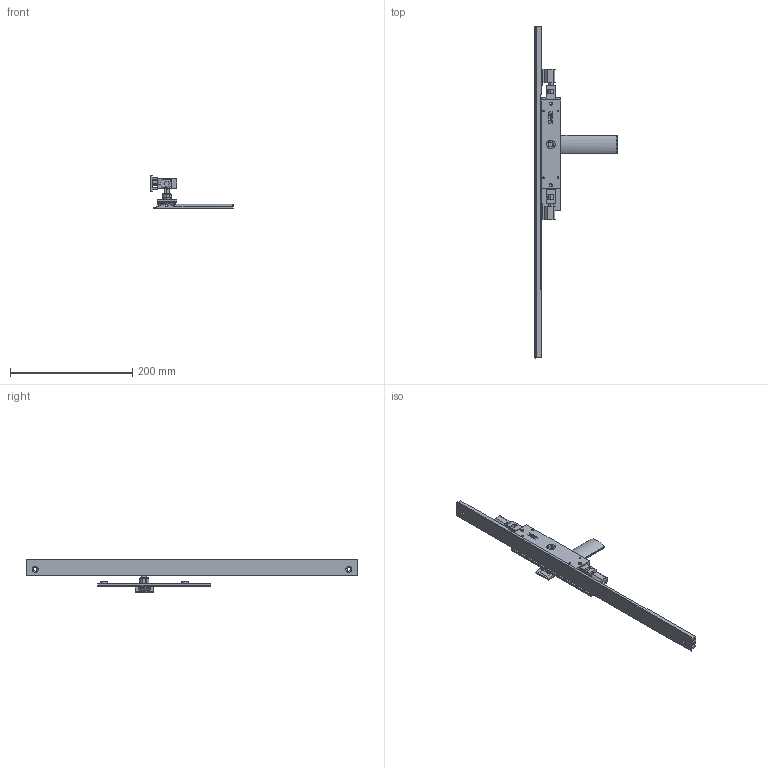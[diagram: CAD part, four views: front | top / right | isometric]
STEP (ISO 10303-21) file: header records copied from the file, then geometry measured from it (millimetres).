
FILE_DESCRIPTION (( 'STEP AP214' ), '1' );
FILE_NAME ('TPL-W-518-U 19July2024.STEP', '2024-12-05T00:09:46', ( '' ), ( '' ), 'SwSTEP 2.0', 'SolidWorks 2023', '' );
FILE_SCHEMA (( 'AUTOMOTIVE_DESIGN' ));
Length unit declared in the file: millimetre
Products named in the file (16): Copy of Escutcheon plate unkeyed 185mm - simplified^Copy of TPGen2 handle non-keyed - simplified_TPL-W-018 19July2024; Copy of Handle sub-assembly - simplified^Copy of TPGen2 handle non-keyed - simplified_TPL-W-018 19July2024; Copy of TPLGen2 lock body non-keyed assembly^TPL-W-018 19July2024_Bolts retracted; Copy of Copy of LKC-531 Lock twinpoint transmission rod wood system^TPL-W-018 19July2024_Standard Range 2891.7mm; Copy of Adapter CnE - simplfied^TPL-W-018 19July2024_26mm backset; Copy of TPGen2 handle non-keyed - simplified^TPL-W-018 19July2024_Left; Copy of Adapter DnF - simplfied^TPL-W-018 19July2024_26mm backset; Copy (2) of COV-112-B Cover B suit TPLGen2 standard range^TPL-W-018 19July2024_2870mm; TPL-W-518-U 19July2024; Copy of Copy of Copy of LKC-531 Lock twinpoint transmission rod wood system^TPL-W-018 19July2024_Standard Range 2891.7mm; Copy of TPLGen2 lock body non-keyed^Copy of TPLGen2 lock body non-keyed assembly_TPL-W-018 19July2024; Copy of LKC-547 Spindle - simplified^Copy of TPGen2 handle non-keyed - simplified_TPL-W-018 19July2024_G - 24mm; Copy of TPLGen2 push rod - simplified^Copy of TPLGen2 lock body non-keyed assembly_TPL-W-018 19July2024_Female thread M10; Bolt(2)^TPL-W-018 19July2024; Copy of COV-112-C Cover C TPLGen2 Lock body^TPL-W-018 19July2024; Copy of COV-112-A Cover A suit TPLGen2 standard range^TPL-W-018 19July2024_1335mm
Assembly tree (13 placements, depth 3):
  Copy (2) of COV-112-B Cover B suit TPLGen2 standard range^TPL-W-018 19July2024_2870mm
  TPL-W-518-U 19July2024
    Copy of TPLGen2 lock body non-keyed assembly^TPL-W-018 19July2024_Bolts retracted
      Copy of TPLGen2 lock body non-keyed^Copy of TPLGen2 lock body non-keyed assembly_TPL-W-018 19July2024
      Copy of TPLGen2 push rod - simplified^Copy of TPLGen2 lock body non-keyed assembly_TPL-W-018 19July2024_Female thread M10  x2
    Copy of TPGen2 handle non-keyed - simplified^TPL-W-018 19July2024_Left
      Copy of Escutcheon plate unkeyed 185mm - simplified^Copy of TPGen2 handle non-keyed - simplified_TPL-W-018 19July2024
      Copy of Handle sub-assembly - simplified^Copy of TPGen2 handle non-keyed - simplified_TPL-W-018 19July2024
      Copy of LKC-547 Spindle - simplified^Copy of TPGen2 handle non-keyed - simplified_TPL-W-018 19July2024_G - 24mm
    Copy of COV-112-C Cover C TPLGen2 Lock body^TPL-W-018 19July2024
    Copy of Copy of LKC-531 Lock twinpoint transmission rod wood system^TPL-W-018 19July2024_Standard Range 2891.7mm
    Copy of Copy of Copy of LKC-531 Lock twinpoint transmission rod wood system^TPL-W-018 19July2024_Standard Range 2891.7mm
    Copy of Adapter DnF - simplfied^TPL-W-018 19July2024_26mm backset
    Copy of Adapter CnE - simplfied^TPL-W-018 19July2024_26mm backset
  Bolt(2)^TPL-W-018 19July2024
  Copy of COV-112-A Cover A suit TPLGen2 standard range^TPL-W-018 19July2024_1335mm
Bounding box: 134.5 x 544 x 54.62 mm (x, y, z)
Volume: 210383.6 mm3; surface area: 119764.3 mm2
Topology: 12 solids, 12 shells, 637 faces, 1619 edges, 1023 vertices
Faces by surface type: plane 297, cylinder 199, bspline 77, torus 32, cone 20, sphere 12
Entity records: 19175 total; most frequent: CARTESIAN_POINT 4453, ORIENTED_EDGE 3022, DIRECTION 2875, EDGE_CURVE 1511, AXIS2_PLACEMENT_3D 993, VERTEX_POINT 963, LINE 889, VECTOR 889
